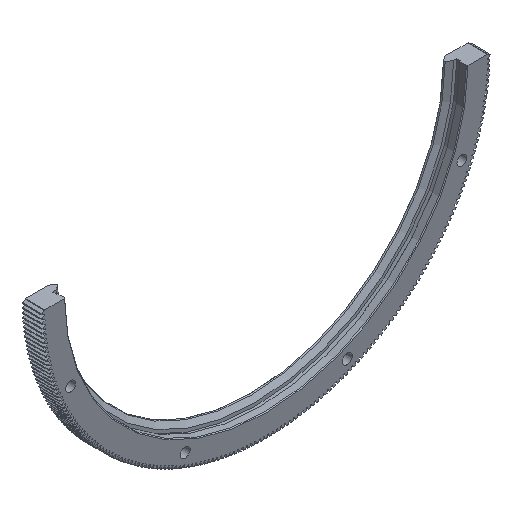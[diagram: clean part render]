
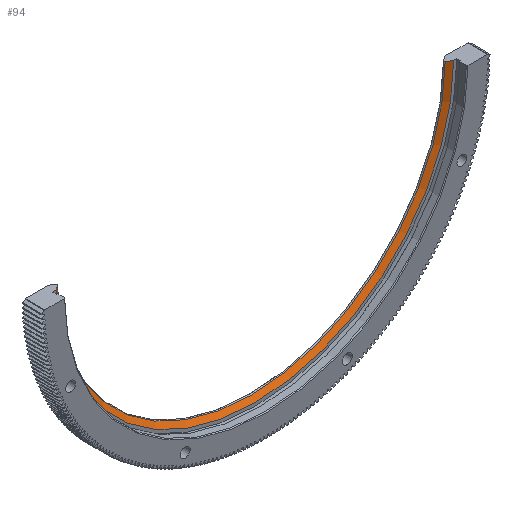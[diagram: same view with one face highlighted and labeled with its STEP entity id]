
A CAD part, isometric view. The second image highlights one B-rep face of the part: STEP entity #94.
In plain terms, the highlighted conical face has half-angle 55 degrees and reference radius 98.521 mm.
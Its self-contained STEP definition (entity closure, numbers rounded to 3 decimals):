
#94=ADVANCED_FACE('',(#1088),#1089,.F.);
#1088=FACE_OUTER_BOUND('',#3092,.T.);
#1089=CONICAL_SURFACE('',#3093,98.521,0.96);
#3092=EDGE_LOOP('',(#5108,#5109,#5110,#5111));
#3093=AXIS2_PLACEMENT_3D('',#5112,#5113,#5114);
#5108=ORIENTED_EDGE('',*,*,#13981,.T.);
#5109=ORIENTED_EDGE('',*,*,#13971,.T.);
#5110=ORIENTED_EDGE('',*,*,#13982,.F.);
#5111=ORIENTED_EDGE('',*,*,#13983,.T.);
#5112=CARTESIAN_POINT('',(0.0,7.576,0.0));
#5113=DIRECTION('',(0.0,-1.0,-0.0));
#5114=DIRECTION('',(0.0,0.0,-1.0));
#13971=EDGE_CURVE('',#16923,#16920,#16924,.T.);
#13981=EDGE_CURVE('',#16942,#16923,#16943,.T.);
#13982=EDGE_CURVE('',#16944,#16920,#16945,.T.);
#13983=EDGE_CURVE('',#16944,#16942,#16946,.T.);
#16920=VERTEX_POINT('',#21842);
#16923=VERTEX_POINT('',#21852);
#16924=B_SPLINE_CURVE_WITH_KNOTS('',3,(#21853,#21854,#21855,#21856),.UNSPECIFIED.,.F.,.F.,(4,4),(0.148,0.151),.UNSPECIFIED.);
#16942=VERTEX_POINT('',#21887);
#16943=CIRCLE('',#21888,101.057);
#16944=VERTEX_POINT('',#21889);
#16945=CIRCLE('',#21890,98.521);
#16946=B_SPLINE_CURVE_WITH_KNOTS('',3,(#21891,#21892,#21893,#21894),.UNSPECIFIED.,.F.,.F.,(4,4),(0.389,0.392),.UNSPECIFIED.);
#21842=CARTESIAN_POINT('',(98.516,7.576,-1.0));
#21852=CARTESIAN_POINT('',(101.052,5.8,-1.0));
#21853=CARTESIAN_POINT('',(101.052,5.8,-1.0));
#21854=CARTESIAN_POINT('',(100.207,6.392,-1.0));
#21855=CARTESIAN_POINT('',(99.361,6.984,-1.0));
#21856=CARTESIAN_POINT('',(98.516,7.576,-1.0));
#21887=CARTESIAN_POINT('',(-101.052,5.8,-1.0));
#21888=AXIS2_PLACEMENT_3D('',#29892,#29893,#29894);
#21889=CARTESIAN_POINT('',(-98.516,7.576,-1.0));
#21890=AXIS2_PLACEMENT_3D('',#29895,#29896,#29897);
#21891=CARTESIAN_POINT('',(-98.516,7.576,-1.0));
#21892=CARTESIAN_POINT('',(-99.361,6.984,-1.0));
#21893=CARTESIAN_POINT('',(-100.207,6.392,-1.0));
#21894=CARTESIAN_POINT('',(-101.052,5.8,-1.0));
#29892=CARTESIAN_POINT('',(0.0,5.8,0.0));
#29893=DIRECTION('',(0.0,-1.0,0.0));
#29894=DIRECTION('',(0.0,0.0,-1.0));
#29895=CARTESIAN_POINT('',(0.0,7.576,0.0));
#29896=DIRECTION('',(0.0,-1.0,0.0));
#29897=DIRECTION('',(0.0,0.0,-1.0));
